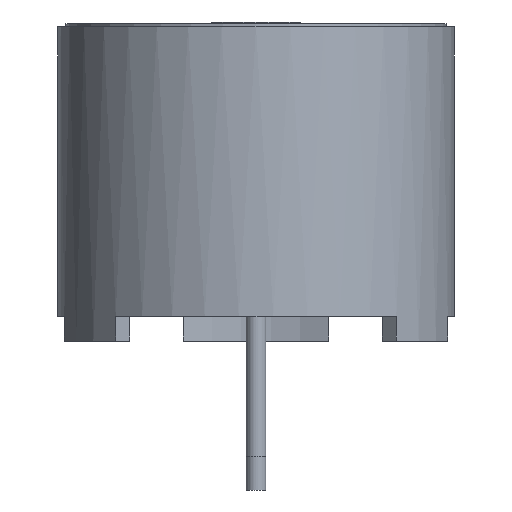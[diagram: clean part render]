
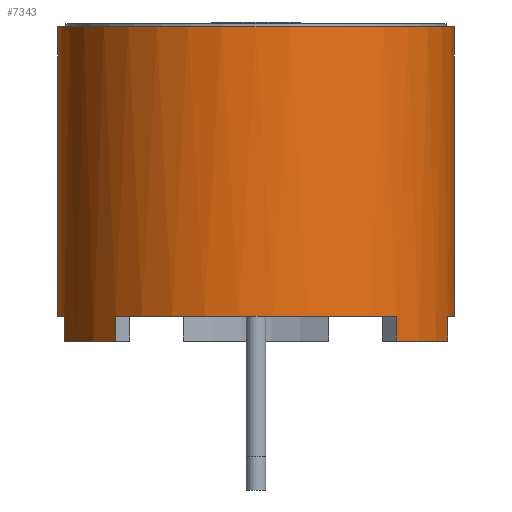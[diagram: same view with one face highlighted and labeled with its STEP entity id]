
A CAD part, left-side view. The second image highlights one B-rep face of the part: STEP entity #7343.
In plain terms, the highlighted cylindrical face has radius 6 mm (diameter 12 mm), a partial arc.
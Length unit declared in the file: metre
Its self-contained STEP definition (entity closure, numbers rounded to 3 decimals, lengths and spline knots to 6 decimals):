
#96=CYLINDRICAL_SURFACE('',#8083,0.006);
#185=CIRCLE('',#8070,0.006);
#186=CIRCLE('',#8073,0.006);
#187=CIRCLE('',#8076,0.006);
#188=CIRCLE('',#8077,0.006);
#189=CIRCLE('',#8078,0.006);
#190=CIRCLE('',#8081,0.006);
#921=ORIENTED_EDGE('',*,*,#2886,.F.);
#922=ORIENTED_EDGE('',*,*,#2983,.T.);
#923=ORIENTED_EDGE('',*,*,#2892,.T.);
#924=ORIENTED_EDGE('',*,*,#2995,.T.);
#925=ORIENTED_EDGE('',*,*,#2986,.T.);
#926=ORIENTED_EDGE('',*,*,#2987,.T.);
#927=ORIENTED_EDGE('',*,*,#2990,.T.);
#928=ORIENTED_EDGE('',*,*,#2994,.T.);
#929=ORIENTED_EDGE('',*,*,#2997,.T.);
#930=ORIENTED_EDGE('',*,*,#2998,.T.);
#931=ORIENTED_EDGE('',*,*,#3000,.T.);
#932=ORIENTED_EDGE('',*,*,#2991,.F.);
#2886=EDGE_CURVE('',#3982,#3983,#4626,.T.);
#2892=EDGE_CURVE('',#3989,#3988,#4629,.T.);
#2983=EDGE_CURVE('',#3982,#3989,#185,.T.);
#2986=EDGE_CURVE('',#4047,#4048,#4696,.T.);
#2987=EDGE_CURVE('',#4048,#4049,#186,.T.);
#2990=EDGE_CURVE('',#4049,#4050,#4699,.T.);
#2991=EDGE_CURVE('',#3983,#4051,#187,.T.);
#2994=EDGE_CURVE('',#4050,#4052,#188,.T.);
#2995=EDGE_CURVE('',#3988,#4047,#189,.T.);
#2997=EDGE_CURVE('',#4052,#4053,#4703,.T.);
#2998=EDGE_CURVE('',#4053,#4054,#190,.T.);
#3000=EDGE_CURVE('',#4054,#4051,#4705,.T.);
#3982=VERTEX_POINT('',#11705);
#3983=VERTEX_POINT('',#11707);
#3988=VERTEX_POINT('',#11717);
#3989=VERTEX_POINT('',#11719);
#4047=VERTEX_POINT('',#11909);
#4048=VERTEX_POINT('',#11911);
#4049=VERTEX_POINT('',#11915);
#4050=VERTEX_POINT('',#11919);
#4051=VERTEX_POINT('',#11923);
#4052=VERTEX_POINT('',#11926);
#4053=VERTEX_POINT('',#11931);
#4054=VERTEX_POINT('',#11935);
#4626=LINE('',#11706,#5449);
#4629=LINE('',#11718,#5452);
#4696=LINE('',#11912,#5519);
#4699=LINE('',#11920,#5522);
#4703=LINE('',#11932,#5526);
#4705=LINE('',#11938,#5528);
#5449=VECTOR('',#8680,1.);
#5452=VECTOR('',#8689,1.);
#5519=VECTOR('',#8890,1.);
#5522=VECTOR('',#8899,1.);
#5526=VECTOR('',#8913,1.);
#5528=VECTOR('',#8921,1.);
#6142=EDGE_LOOP('',(#921,#922,#923,#924,#925,#926,#927,#928,#929,#930,#931,#932));
#6588=FACE_BOUND('',#6142,.T.);
#7343=ADVANCED_FACE('NONE',(#6588),#96,.T.);
#8070=AXIS2_PLACEMENT_3D('',#11906,#8884,#8885);
#8073=AXIS2_PLACEMENT_3D('',#11914,#8893,#8894);
#8076=AXIS2_PLACEMENT_3D('',#11922,#8902,#8903);
#8077=AXIS2_PLACEMENT_3D('',#11927,#8906,#8907);
#8078=AXIS2_PLACEMENT_3D('',#11928,#8908,#8909);
#8081=AXIS2_PLACEMENT_3D('',#11934,#8916,#8917);
#8083=AXIS2_PLACEMENT_3D('',#11939,#8922,#8923);
#8680=DIRECTION('',(0.,0.,-1.));
#8689=DIRECTION('',(0.,0.,-1.));
#8884=DIRECTION('',(0.,0.,-1.));
#8885=DIRECTION('',(0.,1.,0.));
#8890=DIRECTION('',(0.,0.,-1.));
#8893=DIRECTION('',(0.,0.,1.));
#8894=DIRECTION('',(0.,1.,0.));
#8899=DIRECTION('',(0.,0.,1.));
#8902=DIRECTION('',(0.,0.,-1.));
#8903=DIRECTION('',(0.,1.,0.));
#8906=DIRECTION('',(0.,0.,1.));
#8907=DIRECTION('',(0.,1.,0.));
#8908=DIRECTION('',(0.,0.,1.));
#8909=DIRECTION('',(0.,1.,0.));
#8913=DIRECTION('',(0.,0.,-1.));
#8916=DIRECTION('',(0.,0.,1.));
#8917=DIRECTION('',(0.,1.,0.));
#8921=DIRECTION('',(0.,0.,1.));
#8922=DIRECTION('',(0.,0.,-1.));
#8923=DIRECTION('',(0.,1.,0.));
#11705=CARTESIAN_POINT('',(0.,-0.006,0.0095));
#11706=CARTESIAN_POINT('',(0.,-0.006,0.0095));
#11707=CARTESIAN_POINT('',(0.,-0.006,0.00075));
#11717=CARTESIAN_POINT('',(0.,0.006,0.00075));
#11718=CARTESIAN_POINT('',(0.,0.006,0.0095));
#11719=CARTESIAN_POINT('',(0.,0.006,0.0095));
#11906=CARTESIAN_POINT('',(0.,0.,0.0095));
#11909=CARTESIAN_POINT('',(-0.001553,0.005796,0.00075));
#11911=CARTESIAN_POINT('',(-0.001553,0.005796,0.));
#11912=CARTESIAN_POINT('',(-0.001553,0.005796,0.0095));
#11914=CARTESIAN_POINT('',(0.,0.,0.));
#11915=CARTESIAN_POINT('',(-0.004243,0.004243,0.));
#11919=CARTESIAN_POINT('',(-0.004243,0.004243,0.00075));
#11920=CARTESIAN_POINT('',(-0.004243,0.004243,0.0095));
#11922=CARTESIAN_POINT('',(0.,0.,0.00075));
#11923=CARTESIAN_POINT('',(-0.001553,-0.005796,0.00075));
#11926=CARTESIAN_POINT('',(-0.004243,-0.004243,0.00075));
#11927=CARTESIAN_POINT('',(0.,0.,0.00075));
#11928=CARTESIAN_POINT('',(0.,0.,0.00075));
#11931=CARTESIAN_POINT('',(-0.004243,-0.004243,0.));
#11932=CARTESIAN_POINT('',(-0.004243,-0.004243,0.0095));
#11934=CARTESIAN_POINT('',(0.,0.,0.));
#11935=CARTESIAN_POINT('',(-0.001553,-0.005796,0.));
#11938=CARTESIAN_POINT('',(-0.001553,-0.005796,0.0095));
#11939=CARTESIAN_POINT('',(0.,0.,0.0095));
